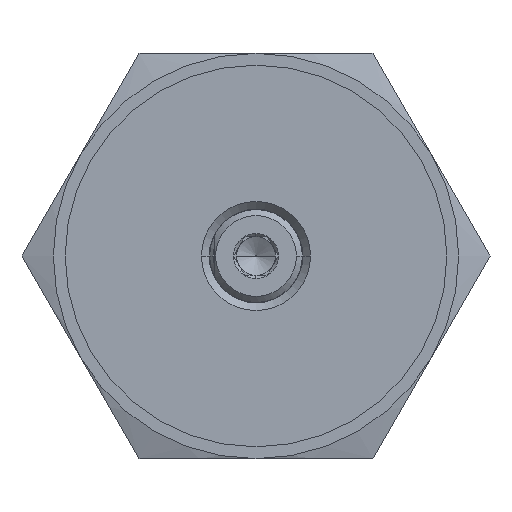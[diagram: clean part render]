
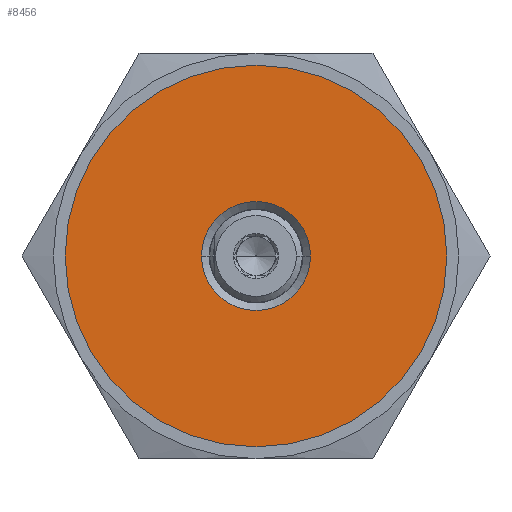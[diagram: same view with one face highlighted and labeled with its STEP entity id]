
A CAD part, left-side view. The second image highlights one B-rep face of the part: STEP entity #8456.
In plain terms, the highlighted planar face has unit normal (-1, 0, 0).
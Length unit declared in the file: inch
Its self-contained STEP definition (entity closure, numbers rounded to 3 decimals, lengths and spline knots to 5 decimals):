
#8264=CARTESIAN_POINT('',(-3.11,-0.2185,0.));
#8265=VERTEX_POINT('',#8264);
#8273=CARTESIAN_POINT('',(-3.11,0.2185,0.));
#8274=VERTEX_POINT('',#8273);
#8281=CARTESIAN_POINT('',(-3.11,0.0,0.));
#8282=DIRECTION('',(-1.0,0.0,0.0));
#8283=DIRECTION('',(0.0,-1.0,0.0));
#8284=AXIS2_PLACEMENT_3D('',#8281,#8282,#8283);
#8285=CIRCLE('',#8284,0.2185);
#8286=EDGE_CURVE('',#8274,#8265,#8285,.T.);
#8298=CARTESIAN_POINT('',(-3.11,-0.765,0.));
#8299=VERTEX_POINT('',#8298);
#8315=CARTESIAN_POINT('',(-3.11,0.765,0.));
#8316=VERTEX_POINT('',#8315);
#8323=CARTESIAN_POINT('',(-3.11,0.0,0.));
#8324=DIRECTION('',(-1.0,0.0,0.0));
#8325=DIRECTION('',(0.0,-1.0,0.0));
#8326=AXIS2_PLACEMENT_3D('',#8323,#8324,#8325);
#8327=CIRCLE('',#8326,0.765);
#8328=EDGE_CURVE('',#8299,#8316,#8327,.T.);
#8425=CARTESIAN_POINT('',(-3.11,0.0,0.));
#8426=DIRECTION('',(-1.0,0.0,0.0));
#8427=DIRECTION('',(0.0,-1.0,0.0));
#8428=AXIS2_PLACEMENT_3D('',#8425,#8426,#8427);
#8429=CIRCLE('',#8428,0.765);
#8430=EDGE_CURVE('',#8316,#8299,#8429,.T.);
#8437=CARTESIAN_POINT('',(-3.11,-0.49175,0.));
#8438=DIRECTION('',(-1.0,0.0,0.0));
#8439=DIRECTION('',(0.0,0.0,1.0));
#8440=AXIS2_PLACEMENT_3D('',#8437,#8438,#8439);
#8441=PLANE('',#8440);
#8442=ORIENTED_EDGE('',*,*,#8328,.T.);
#8443=ORIENTED_EDGE('',*,*,#8430,.T.);
#8444=EDGE_LOOP('',(#8442,#8443));
#8445=FACE_OUTER_BOUND('',#8444,.T.);
#8446=CARTESIAN_POINT('',(-3.11,0.0,0.));
#8447=DIRECTION('',(-1.0,0.0,0.0));
#8448=DIRECTION('',(0.0,-1.0,0.0));
#8449=AXIS2_PLACEMENT_3D('',#8446,#8447,#8448);
#8450=CIRCLE('',#8449,0.2185);
#8451=EDGE_CURVE('',#8265,#8274,#8450,.T.);
#8452=ORIENTED_EDGE('',*,*,#8451,.F.);
#8453=ORIENTED_EDGE('',*,*,#8286,.F.);
#8454=EDGE_LOOP('',(#8452,#8453));
#8455=FACE_BOUND('',#8454,.T.);
#8456=ADVANCED_FACE('',(#8445,#8455),#8441,.T.);
